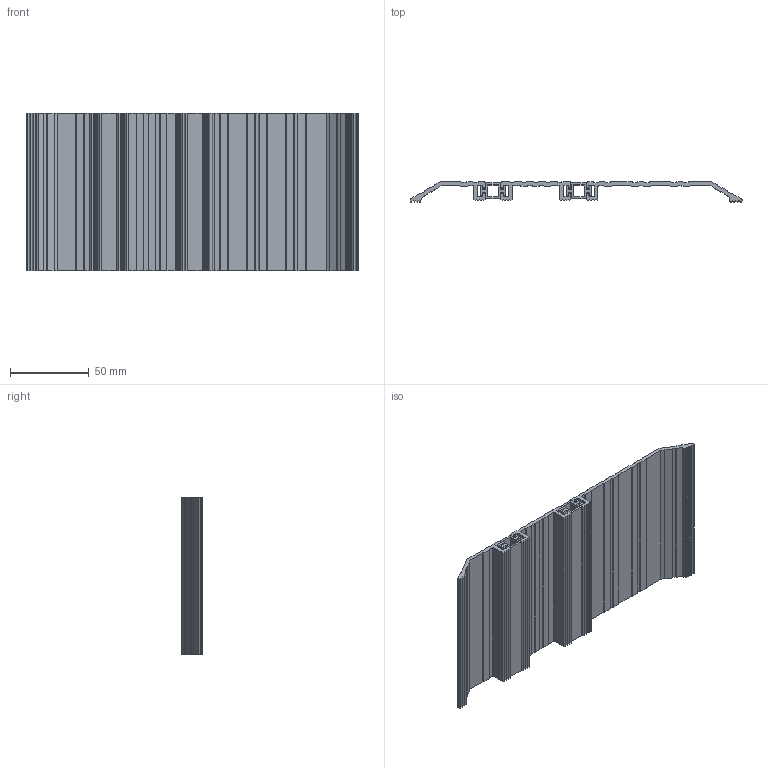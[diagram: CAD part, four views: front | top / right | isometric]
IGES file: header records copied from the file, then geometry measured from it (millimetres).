
Global section: file name: No Iges File Name specified; native system: Autodesk Inventor 2012; preprocessor: AutoDesk Inventor Iges Exporter R2012; author: anna.b; date: 20130718.151027; units: millimetre
Bounding box: 210.35 x 12.77 x 100 mm (x, y, z)
Volume: 74319.1 mm3; surface area: 77284.5 mm2
Topology: 5 solids, 5 shells, 352 faces, 1026 edges, 684 vertices
Faces by surface type: plane 292, cylinder 34, revolution 26
